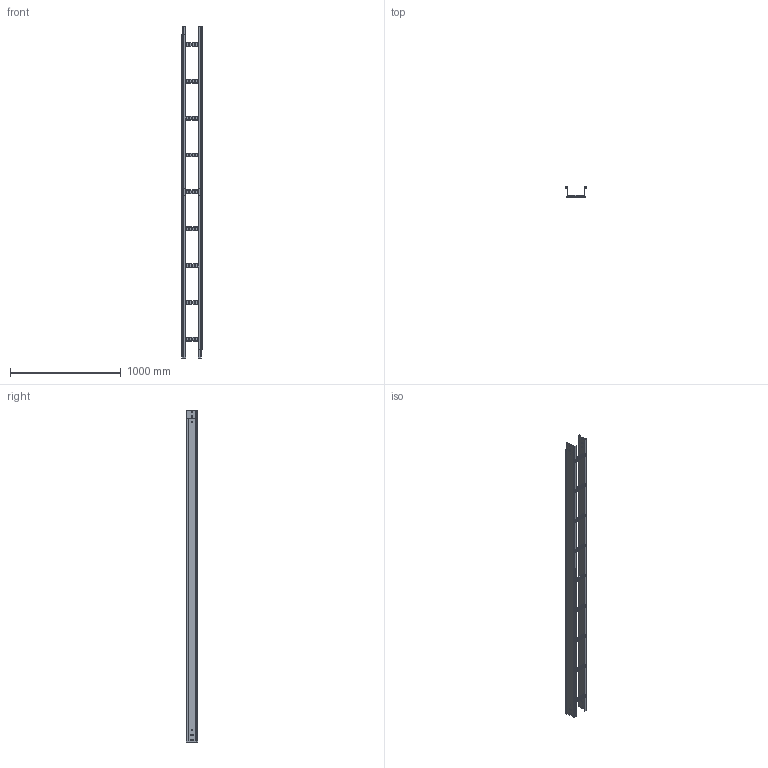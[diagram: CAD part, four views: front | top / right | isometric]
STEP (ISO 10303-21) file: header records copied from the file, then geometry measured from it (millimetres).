
FILE_DESCRIPTION (( 'STEP AP203' ), '1' );
FILE_NAME ('150X100x1,5.step', '2023-08-01T07:29:07', ( '' ), ( '' ), 'SwSTEP 2.0', 'SolidWorks 2022', '' );
FILE_SCHEMA (( 'CONFIG_CONTROL_DESIGN' ));
Length unit declared in the file: millimetre
Products named in the file (3): Montante FER GS_100x1,5; Travesaño RAT35 FER GS_150; 150X100x1,5
Assembly tree (11 placements, depth 2):
  150X100x1,5
    Montante FER GS_100x1,5  x2
    Travesaño RAT35 FER GS_150  x9
Bounding box: 182 x 101.5 x 3000 mm (x, y, z)
Volume: 134882.2 mm3; surface area: 2037667.5 mm2
Topology: 9 solids, 13 shells, 954 faces, 2334 edges, 1440 vertices
Faces by surface type: plane 544, cylinder 262, torus 144, bspline 4
Entity records: 6505 total; most frequent: CARTESIAN_POINT 1402, DIRECTION 1007, ORIENTED_EDGE 918, EDGE_CURVE 467, AXIS2_PLACEMENT_3D 369, VERTEX_POINT 300, LINE 269, VECTOR 269
